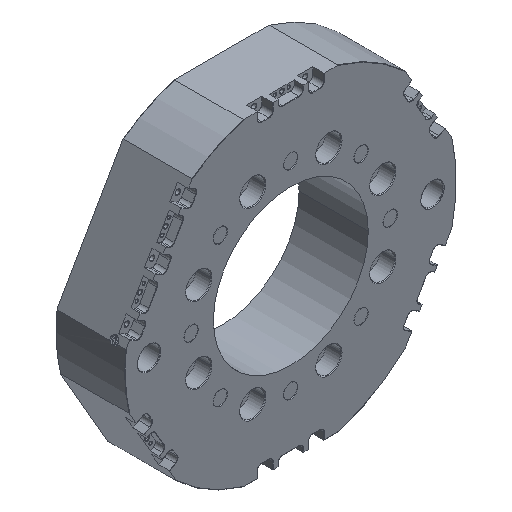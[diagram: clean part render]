
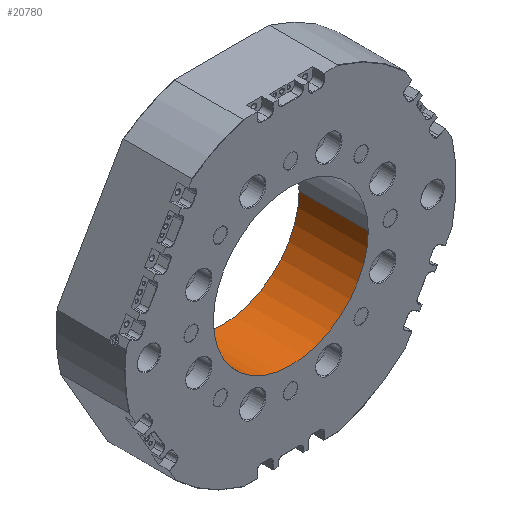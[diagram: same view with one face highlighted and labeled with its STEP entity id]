
A CAD part, isometric view. The second image highlights one B-rep face of the part: STEP entity #20780.
In plain terms, the highlighted cylindrical face has radius 56 mm (diameter 112 mm), a partial arc.
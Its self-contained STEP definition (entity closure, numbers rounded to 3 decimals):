
#2610 = CARTESIAN_POINT ( 'NONE',  ( 0., 0., 0. ) ) ;
#2907 = EDGE_CURVE ( 'NONE', #5149, #4919, #8674, .T. ) ;
#3131 = VECTOR ( 'NONE', #9554, 1000. ) ;
#3233 = DIRECTION ( 'NONE',  ( 0., -1., 0. ) ) ;
#3433 = CARTESIAN_POINT ( 'NONE',  ( -56., 0., 0. ) ) ;
#4919 = VERTEX_POINT ( 'NONE', #3433 ) ;
#5149 = VERTEX_POINT ( 'NONE', #5881 ) ;
#5380 = CARTESIAN_POINT ( 'NONE',  ( -56., -30., 0. ) ) ;
#5881 = CARTESIAN_POINT ( 'NONE',  ( -56., -50., 0. ) ) ;
#6520 = EDGE_LOOP ( 'NONE', ( #11844, #8040, #26692, #7801 ) ) ;
#7661 = AXIS2_PLACEMENT_3D ( 'NONE', #12165, #8243, #26801 ) ;
#7801 = ORIENTED_EDGE ( 'NONE', *, *, #2907, .F. ) ;
#8040 = ORIENTED_EDGE ( 'NONE', *, *, #10290, .T. ) ;
#8071 = AXIS2_PLACEMENT_3D ( 'NONE', #19669, #3233, #17732 ) ;
#8243 = DIRECTION ( 'NONE',  ( 0., 1., 0. ) ) ;
#8674 = LINE ( 'NONE', #5380, #3131 ) ;
#9367 = VERTEX_POINT ( 'NONE', #21010 ) ;
#9554 = DIRECTION ( 'NONE',  ( 0., 1., 0. ) ) ;
#10290 = EDGE_CURVE ( 'NONE', #23128, #9367, #18055, .T. ) ;
#11006 = DIRECTION ( 'NONE',  ( 0., 0., 1. ) ) ;
#11709 = DIRECTION ( 'NONE',  ( 0., 1., 0. ) ) ;
#11844 = ORIENTED_EDGE ( 'NONE', *, *, #14870, .T. ) ;
#12068 = CARTESIAN_POINT ( 'NONE',  ( 56., -50., 0. ) ) ;
#12165 = CARTESIAN_POINT ( 'NONE',  ( 0., -30., 0. ) ) ;
#14870 = EDGE_CURVE ( 'NONE', #5149, #23128, #19429, .T. ) ;
#15087 = CIRCLE ( 'NONE', #21139, 56. ) ;
#16313 = EDGE_CURVE ( 'NONE', #4919, #9367, #15087, .T. ) ;
#17732 = DIRECTION ( 'NONE',  ( 0., 0., -1. ) ) ;
#17828 = CARTESIAN_POINT ( 'NONE',  ( 56., -30., 0. ) ) ;
#18055 = LINE ( 'NONE', #17828, #21970 ) ;
#19429 = CIRCLE ( 'NONE', #8071, 56. ) ;
#19669 = CARTESIAN_POINT ( 'NONE',  ( 0., -50., 0. ) ) ;
#19717 = CYLINDRICAL_SURFACE ( 'NONE', #7661, 56. ) ;
#20366 = FACE_OUTER_BOUND ( 'NONE', #6520, .T. ) ;
#20780 = ADVANCED_FACE ( 'NONE', ( #20366 ), #19717, .F. ) ;
#21010 = CARTESIAN_POINT ( 'NONE',  ( 56., 0., 0. ) ) ;
#21139 = AXIS2_PLACEMENT_3D ( 'NONE', #2610, #23414, #11006 ) ;
#21970 = VECTOR ( 'NONE', #11709, 1000. ) ;
#23128 = VERTEX_POINT ( 'NONE', #12068 ) ;
#23414 = DIRECTION ( 'NONE',  ( 0., -1., 0. ) ) ;
#26692 = ORIENTED_EDGE ( 'NONE', *, *, #16313, .F. ) ;
#26801 = DIRECTION ( 'NONE',  ( -1., 0., 0. ) ) ;
